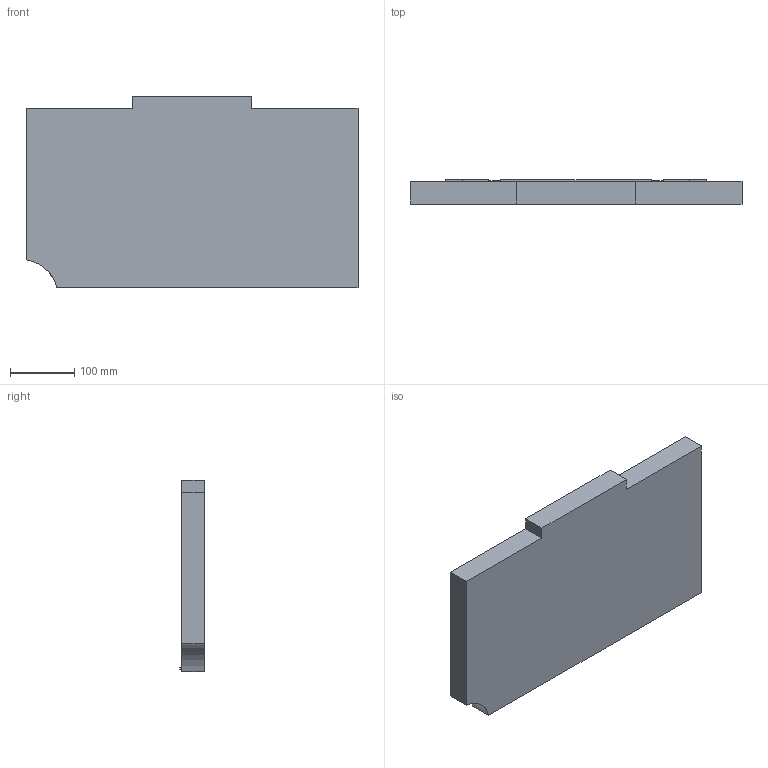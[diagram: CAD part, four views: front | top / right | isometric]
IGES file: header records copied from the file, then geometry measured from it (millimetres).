
Start section: SolidWorks IGES file using analytic representation for surfaces
Global section: file name: C:\working\0450 GMTK\0450 Case, Shallow Drawer, OEM.IGS; native system: SolidWorks 2007; preprocessor: SolidWorks 2007; author: darato; date: 090130.081151; units: inch
Bounding box: 515.08 x 38.61 x 297.36 mm (x, y, z)
Surface area: 390029.5 mm2 (no closed solid volume)
Topology: 0 solids, 0 shells, 142 faces, 1168 edges, 1166 vertices
Faces by surface type: bspline 84, revolution 58
